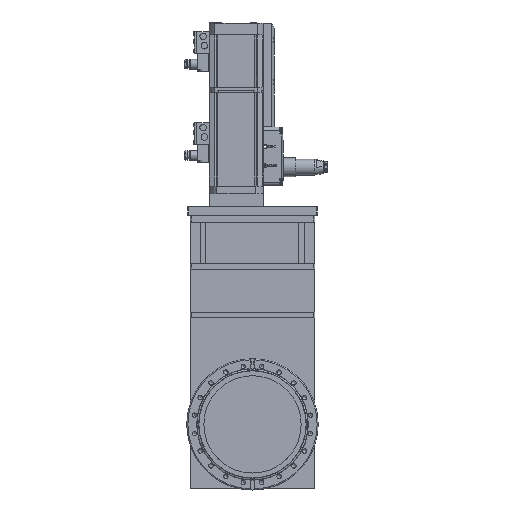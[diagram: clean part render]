
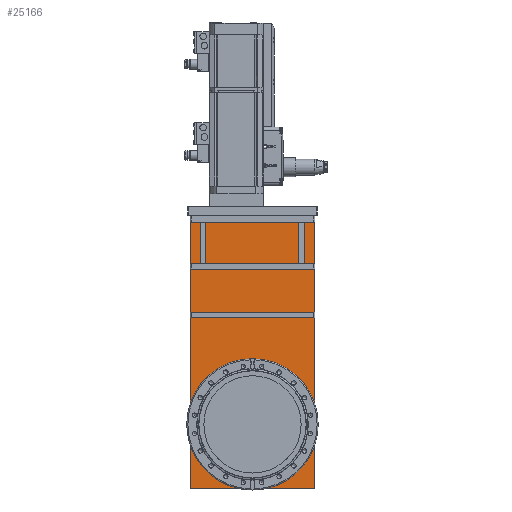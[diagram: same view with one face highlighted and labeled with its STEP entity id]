
A CAD part, left-side view. The second image highlights one B-rep face of the part: STEP entity #25166.
In plain terms, the highlighted planar face has unit normal (-1, 0, 0) as drawn and (0, 0, -1) by its records, which use the part's own axes.
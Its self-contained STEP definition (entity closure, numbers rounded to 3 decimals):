
#10975=LINE('',#67993,#13594);
#10978=LINE('',#68004,#13597);
#10981=LINE('',#68010,#13600);
#10982=LINE('',#68012,#13601);
#13594=VECTOR('',#57145,1.);
#13597=VECTOR('',#57158,1.);
#13600=VECTOR('',#57163,1.);
#13601=VECTOR('',#57166,1.);
#22159=PLANE('',#52829);
#25166=ADVANCED_FACE('',(#27905,#27906),#22159,.T.);
#27905=FACE_BOUND('',#29635,.T.);
#27906=FACE_BOUND('',#29636,.T.);
#29635=EDGE_LOOP('',(#33568,#33569,#33570,#33571));
#29636=EDGE_LOOP('',(#33572));
#33568=ORIENTED_EDGE('',*,*,#46633,.F.);
#33569=ORIENTED_EDGE('',*,*,#46639,.T.);
#33570=ORIENTED_EDGE('',*,*,#46642,.T.);
#33571=ORIENTED_EDGE('',*,*,#46643,.T.);
#33572=ORIENTED_EDGE('',*,*,#46644,.T.);
#42876=VERTEX_POINT('',#67992);
#42877=VERTEX_POINT('',#67994);
#42880=VERTEX_POINT('',#68005);
#42881=VERTEX_POINT('',#68009);
#42882=VERTEX_POINT('',#68015);
#46633=EDGE_CURVE('',#42876,#42877,#10975,.T.);
#46639=EDGE_CURVE('',#42876,#42880,#10978,.T.);
#46642=EDGE_CURVE('',#42880,#42881,#10981,.T.);
#46643=EDGE_CURVE('',#42881,#42877,#10982,.T.);
#46644=EDGE_CURVE('',#42882,#42882,#51187,.T.);
#51187=CIRCLE('',#52828,75.3);
#52828=AXIS2_PLACEMENT_3D('',#68014,#57169,#57170);
#52829=AXIS2_PLACEMENT_3D('',#68016,#57171,#57172);
#57145=DIRECTION('',(0.,1.,0.));
#57158=DIRECTION('',(-1.,0.,0.));
#57163=DIRECTION('',(0.,1.,0.));
#57166=DIRECTION('',(1.,0.,0.));
#57169=DIRECTION('',(0.,0.,1.));
#57170=DIRECTION('',(0.,1.,0.));
#57171=DIRECTION('',(0.,0.,-1.));
#57172=DIRECTION('',(0.,1.,0.));
#67992=CARTESIAN_POINT('',(322.3,-96.225,0.));
#67993=CARTESIAN_POINT('',(322.3,0.,0.));
#67994=CARTESIAN_POINT('',(322.3,96.225,0.));
#68004=CARTESIAN_POINT('',(323.6,-96.225,0.));
#68005=CARTESIAN_POINT('',(-98.55,-96.225,0.));
#68009=CARTESIAN_POINT('',(-98.55,96.225,0.));
#68010=CARTESIAN_POINT('',(-98.55,-96.225,0.));
#68012=CARTESIAN_POINT('',(-98.55,96.225,0.));
#68014=CARTESIAN_POINT('',(0.,0.,0.));
#68015=CARTESIAN_POINT('',(0.,75.3,0.));
#68016=CARTESIAN_POINT('',(0.,0.,0.));
